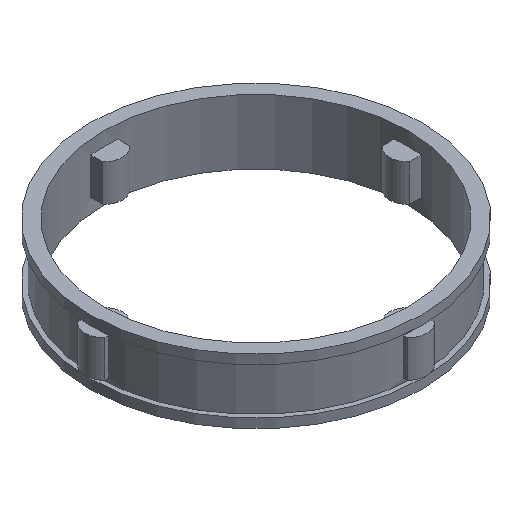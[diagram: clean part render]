
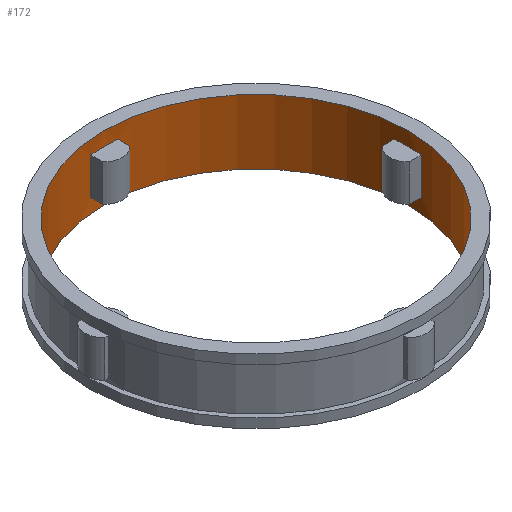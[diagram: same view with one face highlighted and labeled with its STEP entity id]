
A CAD part, isometric view. The second image highlights one B-rep face of the part: STEP entity #172.
In plain terms, the highlighted cylindrical face has radius 16.5 mm (diameter 33 mm), a full revolution.
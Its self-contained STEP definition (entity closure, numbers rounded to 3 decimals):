
#172=ADVANCED_FACE('',(#365,#366,#367,#368,#369,#370),#220,.F.);
#220=CYLINDRICAL_SURFACE('',#893,16.5);
#239=LINE('',#1247,#303);
#240=LINE('',#1251,#304);
#241=LINE('',#1255,#305);
#242=LINE('',#1259,#306);
#243=LINE('',#1263,#307);
#244=LINE('',#1267,#308);
#245=LINE('',#1268,#309);
#246=LINE('',#1273,#310);
#303=VECTOR('',#998,1.);
#304=VECTOR('',#1001,1.);
#305=VECTOR('',#1004,1.);
#306=VECTOR('',#1007,1.);
#307=VECTOR('',#1010,1.);
#308=VECTOR('',#1013,1.);
#309=VECTOR('',#1014,1.);
#310=VECTOR('',#1017,1.);
#365=FACE_BOUND('',#389,.T.);
#366=FACE_BOUND('',#390,.T.);
#367=FACE_BOUND('',#391,.T.);
#368=FACE_BOUND('',#392,.T.);
#369=FACE_BOUND('',#393,.T.);
#370=FACE_BOUND('',#394,.T.);
#389=EDGE_LOOP('',(#465));
#390=EDGE_LOOP('',(#466));
#391=EDGE_LOOP('',(#467,#468,#469,#470));
#392=EDGE_LOOP('',(#471,#472,#473,#474));
#393=EDGE_LOOP('',(#475,#476,#477,#478));
#394=EDGE_LOOP('',(#479,#480,#481,#482));
#465=ORIENTED_EDGE('',*,*,#745,.F.);
#466=ORIENTED_EDGE('',*,*,#746,.T.);
#467=ORIENTED_EDGE('',*,*,#747,.F.);
#468=ORIENTED_EDGE('',*,*,#748,.T.);
#469=ORIENTED_EDGE('',*,*,#749,.T.);
#470=ORIENTED_EDGE('',*,*,#750,.T.);
#471=ORIENTED_EDGE('',*,*,#751,.F.);
#472=ORIENTED_EDGE('',*,*,#752,.T.);
#473=ORIENTED_EDGE('',*,*,#753,.T.);
#474=ORIENTED_EDGE('',*,*,#754,.T.);
#475=ORIENTED_EDGE('',*,*,#755,.F.);
#476=ORIENTED_EDGE('',*,*,#756,.T.);
#477=ORIENTED_EDGE('',*,*,#757,.T.);
#478=ORIENTED_EDGE('',*,*,#758,.T.);
#479=ORIENTED_EDGE('',*,*,#759,.F.);
#480=ORIENTED_EDGE('',*,*,#760,.T.);
#481=ORIENTED_EDGE('',*,*,#761,.F.);
#482=ORIENTED_EDGE('',*,*,#762,.F.);
#673=VERTEX_POINT('',#1241);
#674=VERTEX_POINT('',#1243);
#675=VERTEX_POINT('',#1245);
#676=VERTEX_POINT('',#1246);
#677=VERTEX_POINT('',#1248);
#678=VERTEX_POINT('',#1250);
#679=VERTEX_POINT('',#1253);
#680=VERTEX_POINT('',#1254);
#681=VERTEX_POINT('',#1256);
#682=VERTEX_POINT('',#1258);
#683=VERTEX_POINT('',#1261);
#684=VERTEX_POINT('',#1262);
#685=VERTEX_POINT('',#1264);
#686=VERTEX_POINT('',#1266);
#687=VERTEX_POINT('',#1269);
#688=VERTEX_POINT('',#1270);
#689=VERTEX_POINT('',#1272);
#690=VERTEX_POINT('',#1274);
#745=EDGE_CURVE('',#673,#673,#841,.T.);
#746=EDGE_CURVE('',#674,#674,#842,.T.);
#747=EDGE_CURVE('',#675,#676,#843,.T.);
#748=EDGE_CURVE('',#675,#677,#239,.T.);
#749=EDGE_CURVE('',#677,#678,#844,.T.);
#750=EDGE_CURVE('',#678,#676,#240,.T.);
#751=EDGE_CURVE('',#679,#680,#845,.T.);
#752=EDGE_CURVE('',#679,#681,#241,.T.);
#753=EDGE_CURVE('',#681,#682,#846,.T.);
#754=EDGE_CURVE('',#682,#680,#242,.T.);
#755=EDGE_CURVE('',#683,#684,#847,.T.);
#756=EDGE_CURVE('',#683,#685,#243,.T.);
#757=EDGE_CURVE('',#685,#686,#848,.T.);
#758=EDGE_CURVE('',#686,#684,#244,.T.);
#759=EDGE_CURVE('',#687,#688,#245,.T.);
#760=EDGE_CURVE('',#687,#689,#849,.T.);
#761=EDGE_CURVE('',#690,#689,#246,.T.);
#762=EDGE_CURVE('',#688,#690,#850,.T.);
#841=CIRCLE('',#883,16.5);
#842=CIRCLE('',#884,16.5);
#843=CIRCLE('',#885,16.5);
#844=CIRCLE('',#886,16.5);
#845=CIRCLE('',#887,16.5);
#846=CIRCLE('',#888,16.5);
#847=CIRCLE('',#889,16.5);
#848=CIRCLE('',#890,16.5);
#849=CIRCLE('',#891,16.5);
#850=CIRCLE('',#892,16.5);
#883=AXIS2_PLACEMENT_3D('',#1240,#992,#993);
#884=AXIS2_PLACEMENT_3D('',#1242,#994,#995);
#885=AXIS2_PLACEMENT_3D('',#1244,#996,#997);
#886=AXIS2_PLACEMENT_3D('',#1249,#999,#1000);
#887=AXIS2_PLACEMENT_3D('',#1252,#1002,#1003);
#888=AXIS2_PLACEMENT_3D('',#1257,#1005,#1006);
#889=AXIS2_PLACEMENT_3D('',#1260,#1008,#1009);
#890=AXIS2_PLACEMENT_3D('',#1265,#1011,#1012);
#891=AXIS2_PLACEMENT_3D('',#1271,#1015,#1016);
#892=AXIS2_PLACEMENT_3D('',#1275,#1018,#1019);
#893=AXIS2_PLACEMENT_3D('',#1276,#1020,#1021);
#992=DIRECTION('',(0.,0.,1.));
#993=DIRECTION('',(1.,0.,0.));
#994=DIRECTION('',(0.,0.,1.));
#995=DIRECTION('',(1.,0.,0.));
#996=DIRECTION('',(0.,0.,1.));
#997=DIRECTION('',(1.,0.,0.));
#998=DIRECTION('',(0.,0.,-1.));
#999=DIRECTION('',(0.,0.,1.));
#1000=DIRECTION('',(1.,0.,0.));
#1001=DIRECTION('',(0.,0.,1.));
#1002=DIRECTION('',(0.,0.,1.));
#1003=DIRECTION('',(1.,0.,0.));
#1004=DIRECTION('',(0.,0.,-1.));
#1005=DIRECTION('',(0.,0.,1.));
#1006=DIRECTION('',(1.,0.,0.));
#1007=DIRECTION('',(0.,0.,1.));
#1008=DIRECTION('',(0.,0.,1.));
#1009=DIRECTION('',(1.,0.,0.));
#1010=DIRECTION('',(0.,0.,-1.));
#1011=DIRECTION('',(0.,0.,1.));
#1012=DIRECTION('',(1.,0.,0.));
#1013=DIRECTION('',(0.,0.,1.));
#1014=DIRECTION('',(0.,0.,-1.));
#1015=DIRECTION('',(0.,0.,-1.));
#1016=DIRECTION('',(-1.,0.,0.));
#1017=DIRECTION('',(0.,0.,1.));
#1018=DIRECTION('',(0.,0.,-1.));
#1019=DIRECTION('',(-1.,0.,0.));
#1020=DIRECTION('',(0.,0.,-1.));
#1021=DIRECTION('',(-1.,0.,0.));
#1240=CARTESIAN_POINT('',(0.,0.,0.));
#1241=CARTESIAN_POINT('',(16.5,0.,0.));
#1242=CARTESIAN_POINT('',(0.,0.,7.));
#1243=CARTESIAN_POINT('',(16.5,0.,7.));
#1244=CARTESIAN_POINT('',(0.,0.,5.5));
#1245=CARTESIAN_POINT('',(16.434,-1.471,5.5));
#1246=CARTESIAN_POINT('',(16.434,1.471,5.5));
#1247=CARTESIAN_POINT('',(16.434,-1.471,7.));
#1248=CARTESIAN_POINT('',(16.434,-1.471,1.5));
#1249=CARTESIAN_POINT('',(0.,0.,1.5));
#1250=CARTESIAN_POINT('',(16.434,1.471,1.5));
#1251=CARTESIAN_POINT('',(16.434,1.471,7.));
#1252=CARTESIAN_POINT('',(0.,0.,5.5));
#1253=CARTESIAN_POINT('',(1.471,16.434,5.5));
#1254=CARTESIAN_POINT('',(-1.471,16.434,5.5));
#1255=CARTESIAN_POINT('',(1.471,16.434,7.));
#1256=CARTESIAN_POINT('',(1.471,16.434,1.5));
#1257=CARTESIAN_POINT('',(0.,0.,1.5));
#1258=CARTESIAN_POINT('',(-1.471,16.434,1.5));
#1259=CARTESIAN_POINT('',(-1.471,16.434,7.));
#1260=CARTESIAN_POINT('',(0.,0.,5.5));
#1261=CARTESIAN_POINT('',(-16.434,1.471,5.5));
#1262=CARTESIAN_POINT('',(-16.434,-1.471,5.5));
#1263=CARTESIAN_POINT('',(-16.434,1.471,7.));
#1264=CARTESIAN_POINT('',(-16.434,1.471,1.5));
#1265=CARTESIAN_POINT('',(0.,0.,1.5));
#1266=CARTESIAN_POINT('',(-16.434,-1.471,1.5));
#1267=CARTESIAN_POINT('',(-16.434,-1.471,7.));
#1268=CARTESIAN_POINT('',(1.471,-16.434,7.));
#1269=CARTESIAN_POINT('',(1.471,-16.434,5.5));
#1270=CARTESIAN_POINT('',(1.471,-16.434,1.5));
#1271=CARTESIAN_POINT('',(0.,0.,5.5));
#1272=CARTESIAN_POINT('',(-1.471,-16.434,5.5));
#1273=CARTESIAN_POINT('',(-1.471,-16.434,7.));
#1274=CARTESIAN_POINT('',(-1.471,-16.434,1.5));
#1275=CARTESIAN_POINT('',(0.,0.,1.5));
#1276=CARTESIAN_POINT('',(0.,0.,7.));
